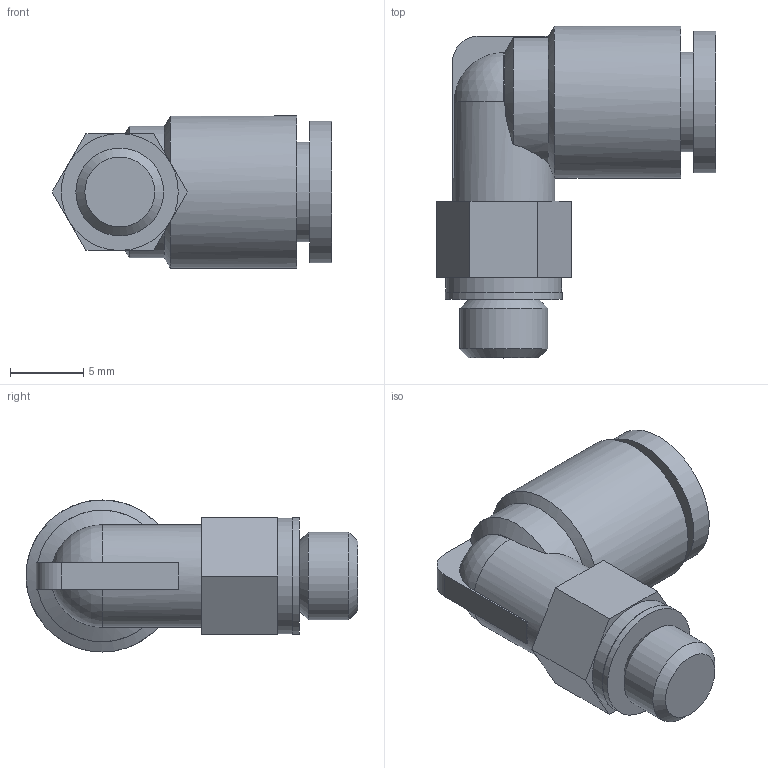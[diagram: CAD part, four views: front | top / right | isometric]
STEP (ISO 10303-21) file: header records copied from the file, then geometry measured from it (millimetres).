
FILE_DESCRIPTION(/* description */ ('STEP AP214'),/* implementation_level */ '2;1');
FILE_NAME(/* name */ 'KQ2L06-M6A',/* time_stamp */ '2023-03-09T07:28:49+01:00',/* author */ ('License CC BY-ND 4.0'),/* organization */ ('CADENAS'),/* preprocessor_version */ 'ST-DEVELOPER v18.102',/* originating_system */ 'PARTsolutions',/* authorisation */ ' ');
FILE_SCHEMA (('AUTOMOTIVE_DESIGN {1 0 10303 214 3 1 1}'));
Length unit declared in the file: millimetre
Products named in the file (1): KQ2L06-M6A
Bounding box: 19.12 x 22.7 x 10.4 mm (x, y, z)
Volume: 1426.7 mm3; surface area: 1355.2 mm2
Topology: 1 solids, 1 shells, 41 faces, 92 edges, 60 vertices
Faces by surface type: plane 21, cylinder 13, cone 5, sphere 2
Full cylindrical faces by diameter (mm): 6 x2, 6.8 x1, 7 x1, 7.9 x1, 8 x1, 9.7 x1, 10.4 x1
Entity records: 1134 total; most frequent: CARTESIAN_POINT 220, DIRECTION 188, ORIENTED_EDGE 162, EDGE_CURVE 81, AXIS2_PLACEMENT_3D 77, VERTEX_POINT 59, EDGE_LOOP 58, FACE_BOUND 58
